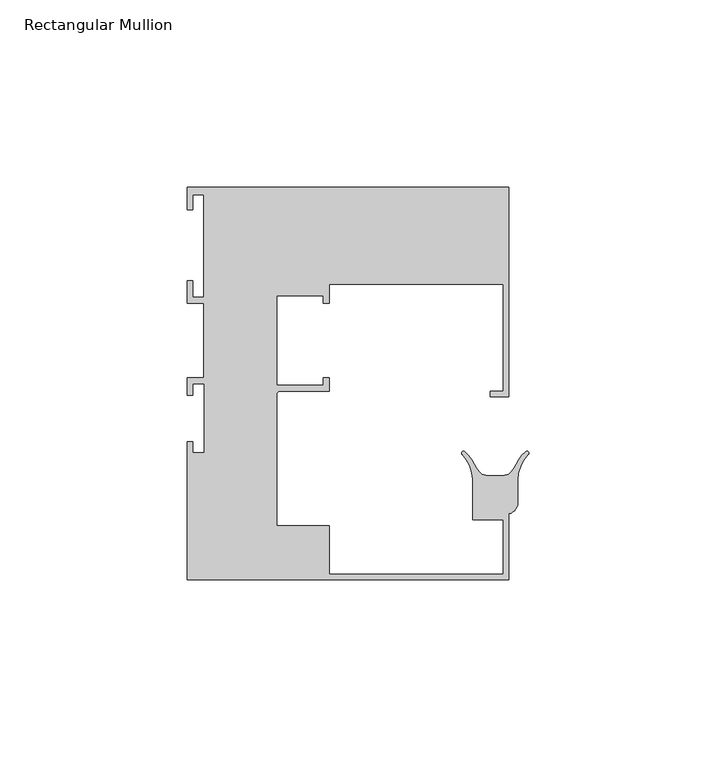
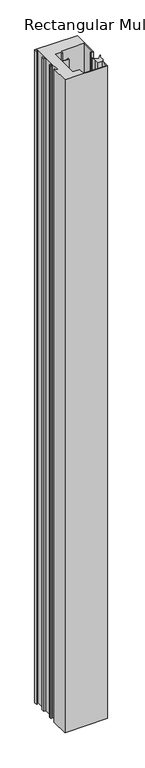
"""IFC4 building model written with IfcOpenShell, lengths in millimetres: member geometry, Rectangular Mullion : Danpal_Airpt_End-Mullion_B1."""

from ifc_helpers import new_model, si_unit, point, frame, frame_2d, origin, place, context, project, spatial, polyline, circle_curve, trimmed, segment, composite_curve, outline, extrude, source, transform, mapped, element, save


def rectangular_mullion_f2997175(model_context):
    return source(origin(), model_context, "Body", "SweptSolid", [
        extrude(outline(composite_curve([segment(polyline([(28.3319078, 44.249979), (-18.1680922, 44.249979), (-18.1680922, 39.2500001), (-19.7680922, 39.2500001), (-19.7680922, 41.2500001), (-32.2500023, 41.2500001), (-32.2500023, 17.2500031), (-19.7500023, 17.2500031), (-19.7500023, 19.2500031), (-18.1500023, 19.2500031), (-18.1500023, 15.7500031), (-31.1983762, 15.7500031)]), True, "CONTINUOUS"), segment(trimmed(circle_curve(frame_2d((-31.1983762, 14.698377)), 1.0516261), [point((-31.1983762, 15.7500031))], [point((-32.2500023, 14.698377))], True, "CARTESIAN"), True, "CONTINUOUS"), segment(polyline([(-32.2500023, 14.698377), (-32.2500023, -20.2499969), (-18.1500023, -20.2499969), (-18.1500023, -33.2499969), (28.3500023, -33.2499969), (28.3500023, -18.6499969), (20.1500023, -18.6499969), (20.1500023, -7.8643287)]), True, "CONTINUOUS"), segment(trimmed(circle_curve(frame_2d((10.1541518, -8.1523787)), 10.0), [point((20.1500023, -7.8643287))], [point((17.3439806, -1.2021009))], True, "CARTESIAN"), True, "CONTINUOUS"), segment(trimmed(circle_curve(frame_2d((17.7037094, -0.8543575)), 0.5003301), [point((17.3439806, -1.2021009))], [point((18.026354, -0.4719563))], False, "CARTESIAN"), True, "CONTINUOUS"), segment(trimmed(circle_curve(frame_2d((11.5777192, -8.1149337)), 9.9999997), [point((18.026354, -0.4719563))], [point((20.5918518, -3.7853369))], False, "CARTESIAN"), True, "CONTINUOUS"), segment(trimmed(circle_curve(frame_2d((29.6059846, 0.5442599)), 10.0), [point((20.5918518, -3.7853369))], [point((21.8217605, -5.7331484))], True, "CARTESIAN"), True, "CONTINUOUS"), segment(trimmed(circle_curve(frame_2d((24.1570278, -3.8499259)), 3.0), [point((21.8217605, -5.7331484))], [point((24.1570278, -6.8499259))], True, "CARTESIAN"), True, "CONTINUOUS"), segment(polyline([(24.1570278, -6.8499259), (28.1956718, -6.8499259)]), True, "CONTINUOUS"), segment(trimmed(circle_curve(frame_2d((28.1956718, -3.8499259)), 3.0), [point((28.1956718, -6.8499259))], [point((30.5309383, -5.7331494))], True, "CARTESIAN"), True, "CONTINUOUS"), segment(trimmed(circle_curve(frame_2d((22.7467169, 0.544262)), 9.9999997), [point((30.5309383, -5.7331494))], [point((31.7608489, -3.785336))], True, "CARTESIAN"), True, "CONTINUOUS"), segment(trimmed(circle_curve(frame_2d((40.774981, -8.114934)), 9.9999998), [point((31.7608489, -3.785336))], [point((34.3289194, -0.4697862))], False, "CARTESIAN"), True, "CONTINUOUS"), segment(trimmed(circle_curve(frame_2d((34.6513305, -0.8521716)), 0.5001675), [point((34.3289194, -0.4697862))], [point((35.0108364, -1.1999114))], False, "CARTESIAN"), True, "CONTINUOUS"), segment(trimmed(circle_curve(frame_2d((42.198548, -8.1523787)), 10.0), [point((35.0108364, -1.1999114))], [point((32.1986067, -8.1181379))], True, "CARTESIAN"), True, "CONTINUOUS"), segment(polyline([(32.1986067, -8.1181379), (32.1986067, -14.1183419)]), True, "CONTINUOUS"), segment(trimmed(circle_curve(frame_2d((29.1986238, -14.1081309)), 3.0000002), [point((32.1986067, -14.1183419))], [point((29.8499992, -17.0365625))], False, "CARTESIAN"), True, "CONTINUOUS"), segment(polyline([(29.8499992, -17.0365625), (29.8499992, -34.75), (-56.15, -34.75), (-56.15, 2.25), (-54.65, 2.25), (-54.65, -0.75), (-51.65, -0.75), (-51.65, 17.65), (-54.65, 17.65), (-54.65, 14.65), (-56.15, 14.65), (-56.15, 19.25), (-51.6680922, 19.25), (-51.6680922, 39.2500001), (-56.1499985, 39.2500001), (-56.1499985, 45.2500001), (-54.6499985, 45.2500001), (-54.6499985, 40.7500001), (-51.6680922, 40.7500001), (-51.6680922, 68.2500001), (-54.6680922, 68.2500001), (-54.6680922, 64.2500001), (-56.1680922, 64.2500001), (-56.1680922, 70.2500001), (29.8319078, 70.2500001), (29.8319078, 14.2500001), (24.8319078, 14.2500001), (24.8319078, 15.7500001), (28.3319078, 15.7500001), (28.3319078, 44.249979)]), True, "CONTINUOUS")], self_intersect=False)), frame((0.0, 0.0, -1387.6638156), z_axis=(0.0, 0.0, 1.0), x_axis=(1.0, 0.0, 0.0)), (0.0, 0.0, 1.0), 1387.6638156),
    ])


if __name__ == "__main__":
    model = new_model("IFC4")
    model_context = context("Model", 3, world=origin())
    ifc_project = project(units=[si_unit("LENGTHUNIT", "METRE", prefix="MILLI")], contexts=[model_context])
    site = spatial("IfcSite", under=ifc_project)
    building = spatial("IfcBuilding", under=site)
    placement = place(None, origin())
    rectangular_mullion_shape = rectangular_mullion_f2997175(model_context)
    element("IfcMember", 1, ObjectType="Rectangular Mullion : Danpal_Airpt_End-Mullion_B1", at=placement, inside=building, context=model_context, shape_type="MappedRepresentation", body=[
        mapped(rectangular_mullion_shape, transform((0.0, 0.0, 0.0), x_axis=(1.0, 0.0, 0.0), y_axis=(0.0, 1.0, 0.0), z_axis=(0.0, 0.0, 1.0))),
    ])
    save(model, "model.ifc")
